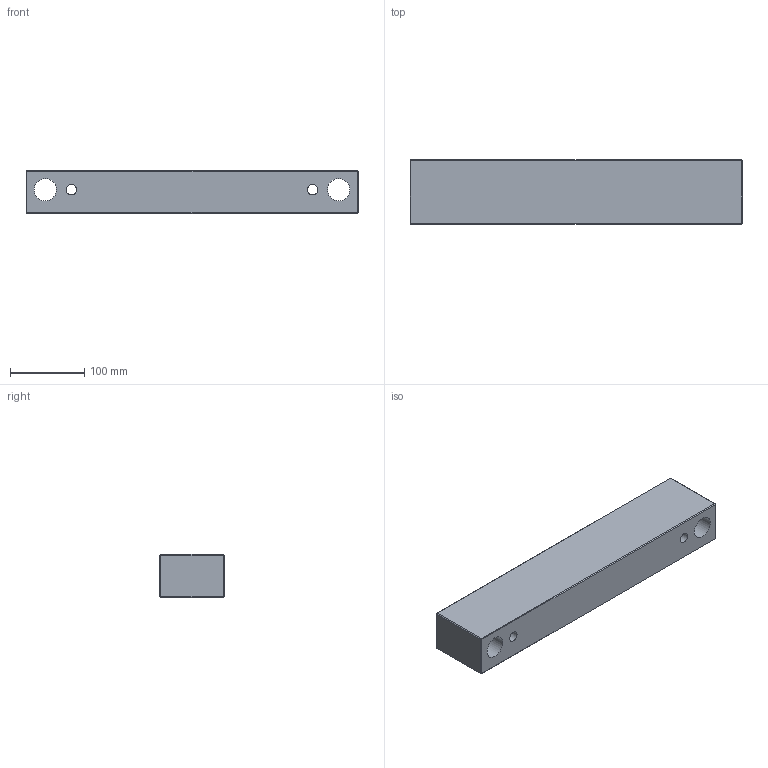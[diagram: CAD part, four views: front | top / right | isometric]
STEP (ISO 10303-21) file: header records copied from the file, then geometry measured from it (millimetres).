
FILE_DESCRIPTION(/* description */ ('STEP AP214'),/* implementation_level */ '2;1');
FILE_NAME(/* name */ 'KM0422464460861730',/* time_stamp */ '2026-07-08T16:15:50+02:00',/* author */ ('License CC BY-ND 4.0'),/* organization */ ('CADENAS'),/* preprocessor_version */ 'ST-DEVELOPER v20',/* originating_system */ 'PARTsolutions',/* authorisation */ ' ');
FILE_SCHEMA (('AUTOMOTIVE_DESIGN {1 0 10303 214 3 1 1}'));
Length unit declared in the file: millimetre
Products named in the file (1): KM0422464460861730
Bounding box: 446 x 86 x 58 mm (x, y, z)
Volume: 2075417 mm3; surface area: 157372.5 mm2
Topology: 1 solids, 1 shells, 22 faces, 60 edges, 40 vertices
Faces by surface type: plane 18, cylinder 4
Full cylindrical faces by diameter (mm): 14 x2, 30 x2
Entity records: 718 total; most frequent: CARTESIAN_POINT 119, ORIENTED_EDGE 112, DIRECTION 110, EDGE_CURVE 56, LINE 48, VECTOR 48, VERTEX_POINT 40, EDGE_LOOP 34
